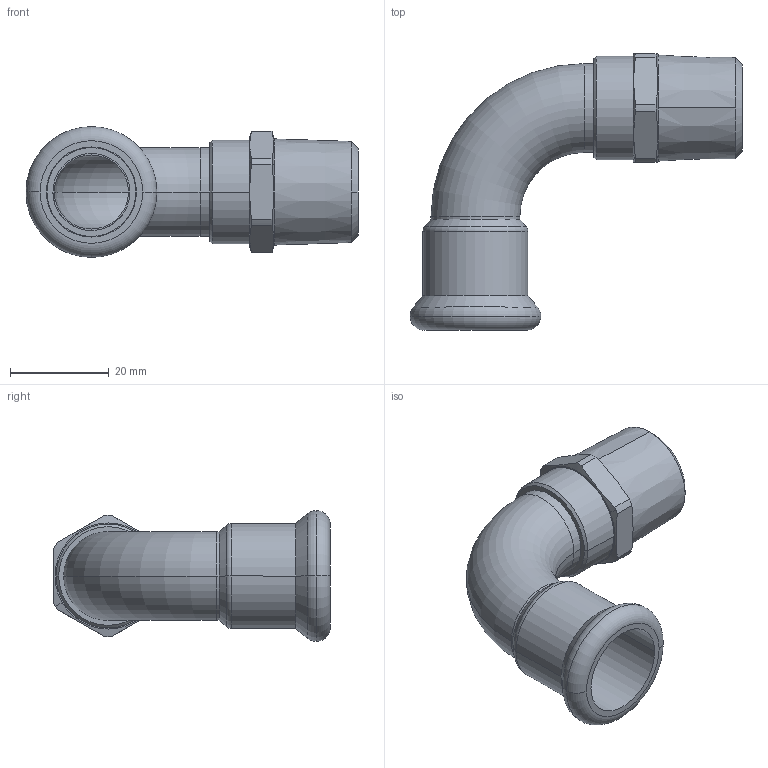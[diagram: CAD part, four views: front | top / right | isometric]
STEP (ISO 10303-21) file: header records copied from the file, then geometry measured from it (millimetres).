
FILE_DESCRIPTION(('CoCreate Modeling STEP Export'),'2;1');
FILE_NAME('C1430 18xR1-2.pkg.stp','2014-11-12T16:15:59',(''),(''),'CoCreate Modeling STEP processor for AP214 (Solid Model)','CoCreate Modeling 17.00A 17-Jun-2010 (C) Parametric Technology GmbH','');
FILE_SCHEMA(('AUTOMOTIVE_DESIGN { 1 0 10303 214 1 1 1 1 }'));
Length unit declared in the file: millimetre
Products named in the file (2): C1430_18xR1-2
Assembly tree (1 placements, depth 2):
  C1430_18xR1-2
    C1430_18xR1-2
Bounding box: 67.25 x 56 x 26.5 mm (x, y, z)
Volume: 11294.4 mm3; surface area: 10818.6 mm2
Topology: 1 solids, 1 shells, 61 faces, 141 edges, 87 vertices
Faces by surface type: cylinder 24, cone 14, plane 13, torus 10
Entity records: 2060 total; most frequent: CARTESIAN_POINT 806, ORIENTED_EDGE 282, DIRECTION 218, EDGE_CURVE 141, AXIS2_PLACEMENT_3D 87, VERTEX_POINT 87, EDGE_LOOP 68, FACE_OUTER_BOUND 61
